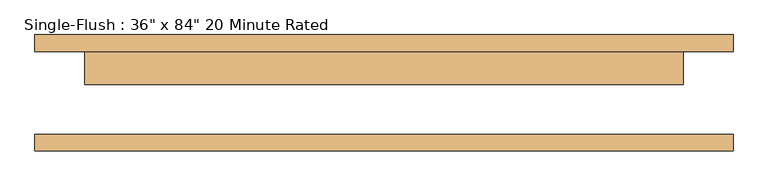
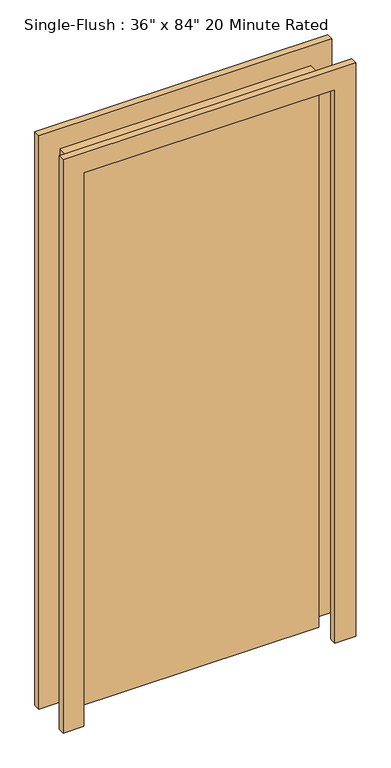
"""IFC4 building model written with IfcOpenShell, lengths in millimetres: door geometry."""

from ifc_helpers import new_model, si_unit, frame, origin, origin_with_axes, place, context, project, spatial, polyline, outline, extrude, source, transform, mapped, element, save


def door_a1797ceb(model_context):
    return source(origin(), model_context, "Body", "SweptSolid", [
        extrude(outline(polyline([(2209.8, -533.4), (0.0, -533.4), (0.0, -457.2), (2133.6, -457.2), (2133.6, 457.2), (0.0, 457.2), (0.0, 533.4), (2209.8, 533.4), (2209.8, -533.4)])), frame((0.0, 63.5, 0.0), z_axis=(0.0, 1.0, 0.0), x_axis=(0.0, 0.0, 1.0)), (0.0, 0.0, 1.0), 25.4),
        extrude(outline(polyline([(2209.8, 533.4), (2209.8, -533.4), (0.0, -533.4), (0.0, -457.2), (2133.6, -457.2), (2133.6, 457.2), (0.0, 457.2), (0.0, 533.4), (2209.8, 533.4)])), frame((0.0, -88.9, 0.0), z_axis=(0.0, 1.0, 0.0), x_axis=(0.0, 0.0, 1.0)), (0.0, 0.0, 1.0), 25.4),
        extrude(outline(polyline([(457.2, 12.7), (-457.2, 12.7), (-457.2, 63.5), (457.2, 63.5), (457.2, 12.7)])), origin_with_axes(), (0.0, 0.0, 1.0), 2133.6),
    ])


if __name__ == "__main__":
    model = new_model("IFC4")
    model_context = context("Model", 3, world=origin())
    ifc_project = project(units=[si_unit("LENGTHUNIT", "METRE", prefix="MILLI")], contexts=[model_context])
    site = spatial("IfcSite", under=ifc_project)
    building = spatial("IfcBuilding", under=site)
    placement = place(None, origin())
    door_shape = door_a1797ceb(model_context)
    element("IfcDoor", 1, ObjectType="Single-Flush : 36\" x 84\" 20 Minute Rated", at=placement, inside=building, context=model_context, shape_type="MappedRepresentation", body=[
        mapped(door_shape, transform((0.0, 0.0, 0.0), x_axis=(1.0, 0.0, 0.0), y_axis=(0.0, 1.0, 0.0), z_axis=(0.0, 0.0, 1.0))),
    ])
    save(model, "model.ifc")
